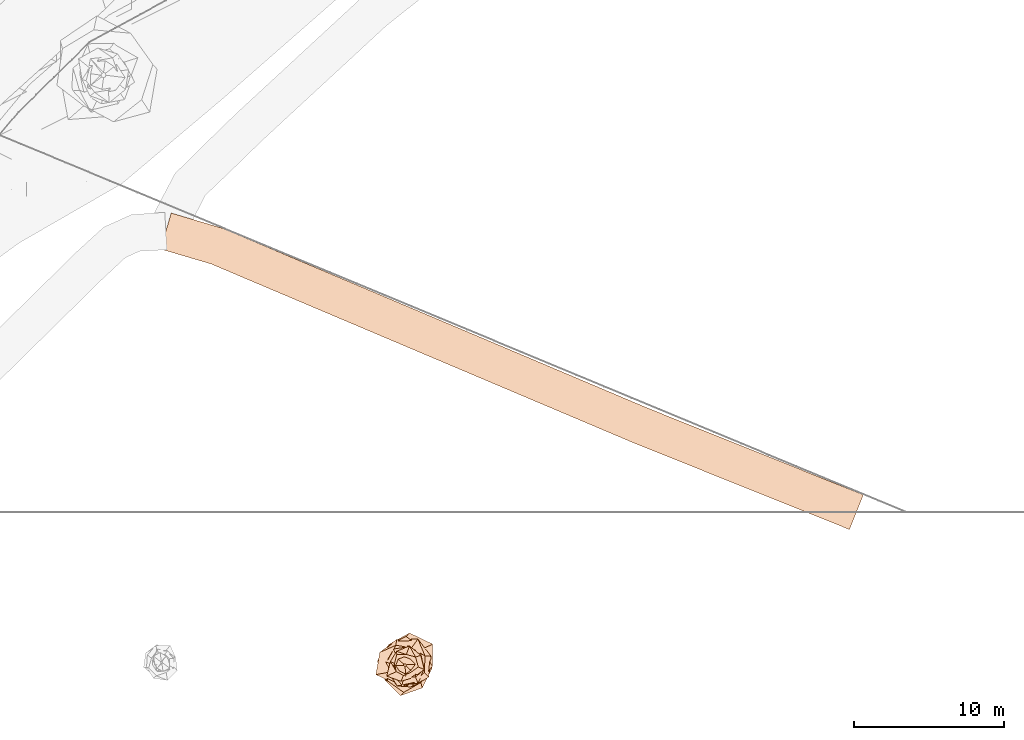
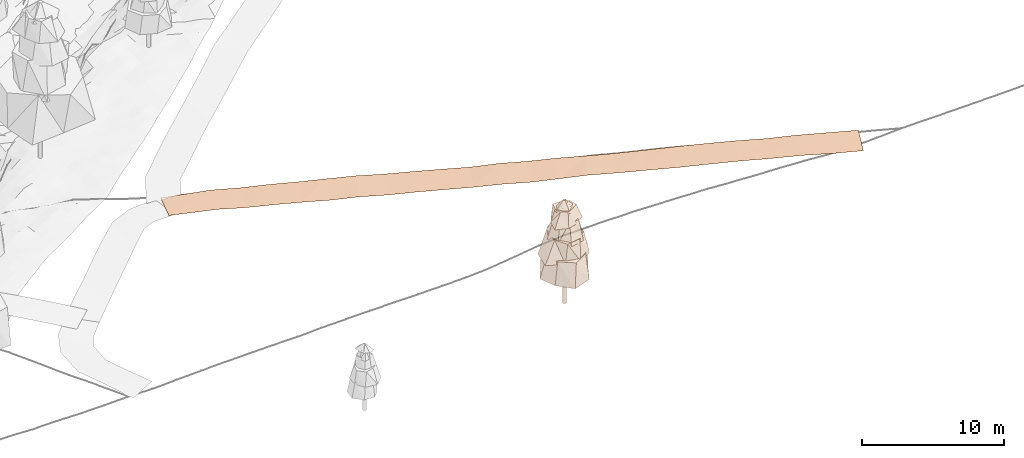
# Not in any storey, part 26 of 88: 2 geographic elements.
"""IFC4 model written with IfcOpenShell, lengths in metres."""

from ifc_helpers import new_model, si_unit, frame, origin_with_axes, place, context, subcontext, project, spatial, circle, extrude, faceted_brep, triangles, element, save


model = new_model("IFC4")

# Units and contexts
model_context = context("Model", 3, precision=1e-05, world=origin_with_axes())
body_context = subcontext(model_context, "Body", "Model", "MODEL_VIEW")
ifc_project = project(units=[si_unit("LENGTHUNIT", "METRE"), si_unit("AREAUNIT", "SQUARE_METRE"), si_unit("VOLUMEUNIT", "CUBIC_METRE"), si_unit("PLANEANGLEUNIT", "RADIAN")], contexts=[model_context])

# Sites
site_1_placement = place(None, origin_with_axes())
site_1 = spatial("IfcSite", under=ifc_project, at=site_1_placement, Name="CH907857693633", CompositionType="ELEMENT")
site_2_placement = place(None, origin_with_axes())
site_2 = spatial("IfcSite", under=site_1, at=site_2_placement, Name="Vegetation", CompositionType="ELEMENT")

# Geographic element
geographic_element_1_placement = place(None, frame((87.2070000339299, -10.183996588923, 6.5784877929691), z_axis=(0.0, 0.0, 1.0), x_axis=(1.0, 0.0, 0.0)))
element("IfcGeographicElement", 1, at=geographic_element_1_placement, inside=site_2, Name="Tree_einzelbaum", ObjectType="VEGETATION", PredefinedType="USERDEFINED", context=body_context, shape_type="Brep", body=[
    extrude(circle(Radius=0.15), origin_with_axes(), (0.0, 0.0, 1.0), 2.5),
    faceted_brep([(1.78797148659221, -0.255790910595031, 2.5), (1.14813169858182, -1.53148292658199, 2.5), (-0.291816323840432, -2.03978814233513, 2.5), (-1.32968465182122, -0.996846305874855, 2.5), (-1.84338488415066, 0.263718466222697, 2.5), (-1.04237487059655, 1.39041480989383, 2.5), (0.305363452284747, 2.13448220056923, 2.5), (1.85155159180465, 1.38808277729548, 2.5), (1.17323776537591, 1.07839284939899, 4.52791861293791), (0.0802415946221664, 1.90494587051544, 4.52791861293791), (-1.15528060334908, 1.25688781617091, 4.52791861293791), (-1.38597258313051, 0.0583810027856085, 4.52791861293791), (-1.15269732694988, -1.05951290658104, 4.52791861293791), (-0.07683726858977, -1.82412672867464, 4.52791861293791), (1.06600774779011, -1.15976339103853, 4.52791861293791), (1.82597462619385, -0.0769151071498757, 4.52791861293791), (1.85155159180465, 1.38808277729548, 2.5), (0.305363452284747, 2.13448220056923, 2.5), (0.0802415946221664, 1.90494587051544, 4.52791861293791), (1.17323776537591, 1.07839284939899, 4.52791861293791), (0.305363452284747, 2.13448220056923, 2.5), (-1.04237487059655, 1.39041480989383, 2.5), (-1.15528060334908, 1.25688781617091, 4.52791861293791), (0.0802415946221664, 1.90494587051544, 4.52791861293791), (-1.04237487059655, 1.39041480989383, 2.5), (-1.84338488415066, 0.263718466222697, 2.5), (-1.38597258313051, 0.0583810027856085, 4.52791861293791), (-1.15528060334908, 1.25688781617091, 4.52791861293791), (-1.84338488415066, 0.263718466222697, 2.5), (-1.32968465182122, -0.996846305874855, 2.5), (-1.15269732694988, -1.05951290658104, 4.52791861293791), (-1.38597258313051, 0.0583810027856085, 4.52791861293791), (-1.32968465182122, -0.996846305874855, 2.5), (-0.291816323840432, -2.03978814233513, 2.5), (-0.07683726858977, -1.82412672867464, 4.52791861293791), (-1.15269732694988, -1.05951290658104, 4.52791861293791), (-0.291816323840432, -2.03978814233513, 2.5), (1.14813169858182, -1.53148292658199, 2.5), (1.06600774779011, -1.15976339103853, 4.52791861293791), (-0.07683726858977, -1.82412672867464, 4.52791861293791), (1.14813169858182, -1.53148292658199, 2.5), (1.78797148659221, -0.255790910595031, 2.5), (1.82597462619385, -0.0769151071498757, 4.52791861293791), (1.06600774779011, -1.15976339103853, 4.52791861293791), (1.78797148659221, -0.255790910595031, 2.5), (1.85155159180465, 1.38808277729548, 2.5), (1.17323776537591, 1.07839284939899, 4.52791861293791), (1.82597462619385, -0.0769151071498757, 4.52791861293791)], [[[0, 1, 2, 3, 4, 5, 6, 7]], [[8, 9, 10, 11, 12, 13, 14, 15]], [[16, 17, 18, 19]], [[20, 21, 22, 23]], [[24, 25, 26, 27]], [[28, 29, 30, 31]], [[32, 33, 34, 35]], [[36, 37, 38, 39]], [[40, 41, 42, 43]], [[44, 45, 46, 47]]]),
    faceted_brep([(1.59155471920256, -0.797926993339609, 4.22373082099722), (0.489352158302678, -1.47335834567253, 4.22373082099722), (-0.626895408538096, -1.25041307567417, 4.22373082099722), (-1.93494684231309, -0.642661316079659, 4.22373082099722), (-1.67559377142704, 0.840060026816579, 4.22373082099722), (-0.563481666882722, 1.69655002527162, 4.22373082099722), (0.865850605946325, 1.72703596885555, 4.22373082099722), (1.74637338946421, 0.580029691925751, 4.22373082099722), (1.34149254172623, 0.600153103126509, 6.02075466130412), (0.434025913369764, 1.13675933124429, 6.02075466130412), (-0.589716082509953, 1.31816318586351, 6.02075466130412), (-1.11516397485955, 0.425780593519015, 6.02075466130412), (-1.06551814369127, -0.476688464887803, 6.02075466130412), (-0.528731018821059, -1.38480192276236, 6.02075466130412), (0.556027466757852, -1.24286068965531, 6.02075466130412), (1.29355959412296, -0.493893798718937, 6.02075466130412), (1.74637338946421, 0.580029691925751, 4.22373082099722), (0.865850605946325, 1.72703596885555, 4.22373082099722), (0.434025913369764, 1.13675933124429, 6.02075466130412), (1.34149254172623, 0.600153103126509, 6.02075466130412), (0.865850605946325, 1.72703596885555, 4.22373082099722), (-0.563481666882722, 1.69655002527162, 4.22373082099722), (-0.589716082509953, 1.31816318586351, 6.02075466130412), (0.434025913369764, 1.13675933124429, 6.02075466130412), (-0.563481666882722, 1.69655002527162, 4.22373082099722), (-1.67559377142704, 0.840060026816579, 4.22373082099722), (-1.11516397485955, 0.425780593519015, 6.02075466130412), (-0.589716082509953, 1.31816318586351, 6.02075466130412), (-1.67559377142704, 0.840060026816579, 4.22373082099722), (-1.93494684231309, -0.642661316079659, 4.22373082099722), (-1.06551814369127, -0.476688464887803, 6.02075466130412), (-1.11516397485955, 0.425780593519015, 6.02075466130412), (-1.93494684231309, -0.642661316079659, 4.22373082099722), (-0.626895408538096, -1.25041307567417, 4.22373082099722), (-0.528731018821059, -1.38480192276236, 6.02075466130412), (-1.06551814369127, -0.476688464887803, 6.02075466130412), (-0.626895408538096, -1.25041307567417, 4.22373082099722), (0.489352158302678, -1.47335834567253, 4.22373082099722), (0.556027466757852, -1.24286068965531, 6.02075466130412), (-0.528731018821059, -1.38480192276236, 6.02075466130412), (0.489352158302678, -1.47335834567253, 4.22373082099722), (1.59155471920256, -0.797926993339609, 4.22373082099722), (1.29355959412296, -0.493893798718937, 6.02075466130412), (0.556027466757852, -1.24286068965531, 6.02075466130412), (1.59155471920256, -0.797926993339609, 4.22373082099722), (1.74637338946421, 0.580029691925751, 4.22373082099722), (1.34149254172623, 0.600153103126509, 6.02075466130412), (1.29355959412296, -0.493893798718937, 6.02075466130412)], [[[0, 1, 2, 3, 4, 5, 6, 7]], [[8, 9, 10, 11, 12, 13, 14, 15]], [[16, 17, 18, 19]], [[20, 21, 22, 23]], [[24, 25, 26, 27]], [[28, 29, 30, 31]], [[32, 33, 34, 35]], [[36, 37, 38, 39]], [[40, 41, 42, 43]], [[44, 45, 46, 47]]]),
    faceted_brep([(1.37280519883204, -0.22150254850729, 5.75120108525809), (0.867832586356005, -1.20176238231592, 5.75120108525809), (-0.232547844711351, -1.44126057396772, 5.75120108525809), (-0.910898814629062, -0.657790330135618, 5.75120108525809), (-1.27912915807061, 0.206387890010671, 5.75120108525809), (-0.807699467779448, 1.1184908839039, 5.75120108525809), (0.206098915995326, 1.27733818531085, 5.75120108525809), (1.13206509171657, 0.817501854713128, 5.75120108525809), (0.734692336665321, 0.651462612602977, 7.35010471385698), (0.0529589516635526, 0.882008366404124, 7.35010471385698), (-0.53910273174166, 0.607977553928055, 7.35010471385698), (-0.900869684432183, 0.0540914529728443, 7.35010471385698), (-0.753183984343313, -0.667859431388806, 7.35010471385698), (-0.0494326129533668, -0.823278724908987, 7.35010471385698), (0.709791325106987, -0.800473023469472, 7.35010471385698), (0.775691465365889, -0.0465753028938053, 7.35010471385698), (1.13206509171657, 0.817501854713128, 5.75120108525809), (0.206098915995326, 1.27733818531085, 5.75120108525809), (0.0529589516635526, 0.882008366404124, 7.35010471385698), (0.734692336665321, 0.651462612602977, 7.35010471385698), (0.206098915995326, 1.27733818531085, 5.75120108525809), (-0.807699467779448, 1.1184908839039, 5.75120108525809), (-0.53910273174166, 0.607977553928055, 7.35010471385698), (0.0529589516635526, 0.882008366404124, 7.35010471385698), (-0.807699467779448, 1.1184908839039, 5.75120108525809), (-1.27912915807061, 0.206387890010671, 5.75120108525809), (-0.900869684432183, 0.0540914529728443, 7.35010471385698), (-0.53910273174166, 0.607977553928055, 7.35010471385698), (-1.27912915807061, 0.206387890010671, 5.75120108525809), (-0.910898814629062, -0.657790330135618, 5.75120108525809), (-0.753183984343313, -0.667859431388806, 7.35010471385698), (-0.900869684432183, 0.0540914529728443, 7.35010471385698), (-0.910898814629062, -0.657790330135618, 5.75120108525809), (-0.232547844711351, -1.44126057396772, 5.75120108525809), (-0.0494326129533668, -0.823278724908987, 7.35010471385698), (-0.753183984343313, -0.667859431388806, 7.35010471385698), (-0.232547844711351, -1.44126057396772, 5.75120108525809), (0.867832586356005, -1.20176238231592, 5.75120108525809), (0.709791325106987, -0.800473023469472, 7.35010471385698), (-0.0494326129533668, -0.823278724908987, 7.35010471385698), (0.867832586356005, -1.20176238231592, 5.75120108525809), (1.37280519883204, -0.22150254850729, 5.75120108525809), (0.775691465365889, -0.0465753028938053, 7.35010471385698), (0.709791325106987, -0.800473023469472, 7.35010471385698), (1.37280519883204, -0.22150254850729, 5.75120108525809), (1.13206509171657, 0.817501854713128, 5.75120108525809), (0.734692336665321, 0.651462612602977, 7.35010471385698), (0.775691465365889, -0.0465753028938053, 7.35010471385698)], [[[0, 1, 2, 3, 4, 5, 6, 7]], [[8, 9, 10, 11, 12, 13, 14, 15]], [[16, 17, 18, 19]], [[20, 21, 22, 23]], [[24, 25, 26, 27]], [[28, 29, 30, 31]], [[32, 33, 34, 35]], [[36, 37, 38, 39]], [[40, 41, 42, 43]], [[44, 45, 46, 47]]]),
    faceted_brep([(1.28647587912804, -0.310355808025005, 7.11026916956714), (0.522927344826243, -0.85545516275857, 7.11026916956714), (-0.261392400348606, -1.08351449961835, 7.11026916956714), (-1.21257569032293, -0.741229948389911, 7.11026916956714), (-0.964812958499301, 0.232756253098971, 7.11026916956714), (-0.557470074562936, 0.911963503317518, 7.11026916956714), (0.305849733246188, 1.26779745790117, 7.11026916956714), (1.05663619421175, 0.645906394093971, 7.11026916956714), (0.703117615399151, 0.533046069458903, 8.23514769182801), (0.0967297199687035, 0.703079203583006, 8.23514769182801), (-0.539454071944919, 0.711570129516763, 8.23514769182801), (-0.696166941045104, 0.0957787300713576, 8.23514769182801), (-0.576571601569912, -0.43710926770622, 8.23514769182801), (-0.0960508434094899, -0.698144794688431, 8.23514769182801), (0.37970357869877, -0.500850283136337, 8.23514769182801), (0.89467178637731, -0.123089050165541, 8.23514769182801), (1.05663619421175, 0.645906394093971, 7.11026916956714), (0.305849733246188, 1.26779745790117, 7.11026916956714), (0.0967297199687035, 0.703079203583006, 8.23514769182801), (0.703117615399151, 0.533046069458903, 8.23514769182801), (0.305849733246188, 1.26779745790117, 7.11026916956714), (-0.557470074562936, 0.911963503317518, 7.11026916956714), (-0.539454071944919, 0.711570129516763, 8.23514769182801), (0.0967297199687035, 0.703079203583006, 8.23514769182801), (-0.557470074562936, 0.911963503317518, 7.11026916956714), (-0.964812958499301, 0.232756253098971, 7.11026916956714), (-0.696166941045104, 0.0957787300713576, 8.23514769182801), (-0.539454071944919, 0.711570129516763, 8.23514769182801), (-0.964812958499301, 0.232756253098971, 7.11026916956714), (-1.21257569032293, -0.741229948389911, 7.11026916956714), (-0.576571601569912, -0.43710926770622, 8.23514769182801), (-0.696166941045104, 0.0957787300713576, 8.23514769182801), (-1.21257569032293, -0.741229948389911, 7.11026916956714), (-0.261392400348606, -1.08351449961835, 7.11026916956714), (-0.0960508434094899, -0.698144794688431, 8.23514769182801), (-0.576571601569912, -0.43710926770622, 8.23514769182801), (-0.261392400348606, -1.08351449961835, 7.11026916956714), (0.522927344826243, -0.85545516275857, 7.11026916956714), (0.37970357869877, -0.500850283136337, 8.23514769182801), (-0.0960508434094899, -0.698144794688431, 8.23514769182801), (0.522927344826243, -0.85545516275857, 7.11026916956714), (1.28647587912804, -0.310355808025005, 7.11026916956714), (0.89467178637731, -0.123089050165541, 8.23514769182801), (0.37970357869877, -0.500850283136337, 8.23514769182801), (1.28647587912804, -0.310355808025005, 7.11026916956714), (1.05663619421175, 0.645906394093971, 7.11026916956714), (0.703117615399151, 0.533046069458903, 8.23514769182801), (0.89467178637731, -0.123089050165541, 8.23514769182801)], [[[0, 1, 2, 3, 4, 5, 6, 7]], [[8, 9, 10, 11, 12, 13, 14, 15]], [[16, 17, 18, 19]], [[20, 21, 22, 23]], [[24, 25, 26, 27]], [[28, 29, 30, 31]], [[32, 33, 34, 35]], [[36, 37, 38, 39]], [[40, 41, 42, 43]], [[44, 45, 46, 47]]]),
    faceted_brep([(0.485109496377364, -0.434178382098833, 8.06641591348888), (0.0408725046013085, -0.737733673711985, 8.06641591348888), (-0.443930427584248, -0.496005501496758, 8.06641591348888), (-0.76035322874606, -0.0421256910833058, 8.06641591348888), (-0.540594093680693, 0.483837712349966, 8.06641591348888), (-0.0374207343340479, 0.67543049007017, 8.06641591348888), (0.442976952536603, 0.494940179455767, 8.06641591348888), (0.859467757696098, 0.0476169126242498, 8.06641591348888), (0.103340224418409, 0.016183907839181, 8.85174064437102), (0.0478882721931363, 0.0656728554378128, 8.85174064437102), (-0.0118248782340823, 0.0755062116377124, 8.85174064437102), (-0.0815187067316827, 0.0594429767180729, 8.85174064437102), (-0.104640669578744, -0.016387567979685, 8.85174064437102), (-0.0478903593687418, -0.0656757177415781, 8.85174064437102), (0.0149141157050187, -0.0952321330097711, 8.85174064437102), (0.0790142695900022, -0.0576167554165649, 8.85174064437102), (0.859467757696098, 0.0476169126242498, 8.06641591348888), (0.442976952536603, 0.494940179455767, 8.06641591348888), (0.0478882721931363, 0.0656728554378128, 8.85174064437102), (0.103340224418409, 0.016183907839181, 8.85174064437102), (0.442976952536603, 0.494940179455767, 8.06641591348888), (-0.0374207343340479, 0.67543049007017, 8.06641591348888), (-0.0118248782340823, 0.0755062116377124, 8.85174064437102), (0.0478882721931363, 0.0656728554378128, 8.85174064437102), (-0.0374207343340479, 0.67543049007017, 8.06641591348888), (-0.540594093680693, 0.483837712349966, 8.06641591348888), (-0.0815187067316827, 0.0594429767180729, 8.85174064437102), (-0.0118248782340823, 0.0755062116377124, 8.85174064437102), (-0.540594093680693, 0.483837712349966, 8.06641591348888), (-0.76035322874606, -0.0421256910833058, 8.06641591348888), (-0.104640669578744, -0.016387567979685, 8.85174064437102), (-0.0815187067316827, 0.0594429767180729, 8.85174064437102), (-0.76035322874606, -0.0421256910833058, 8.06641591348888), (-0.443930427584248, -0.496005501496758, 8.06641591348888), (-0.0478903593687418, -0.0656757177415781, 8.85174064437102), (-0.104640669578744, -0.016387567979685, 8.85174064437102), (-0.443930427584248, -0.496005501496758, 8.06641591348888), (0.0408725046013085, -0.737733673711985, 8.06641591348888), (0.0149141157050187, -0.0952321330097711, 8.85174064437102), (-0.0478903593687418, -0.0656757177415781, 8.85174064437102), (0.0408725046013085, -0.737733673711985, 8.06641591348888), (0.485109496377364, -0.434178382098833, 8.06641591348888), (0.0790142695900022, -0.0576167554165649, 8.85174064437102), (0.0149141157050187, -0.0952321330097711, 8.85174064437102), (0.485109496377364, -0.434178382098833, 8.06641591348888), (0.859467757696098, 0.0476169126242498, 8.06641591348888), (0.103340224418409, 0.016183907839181, 8.85174064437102), (0.0790142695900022, -0.0576167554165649, 8.85174064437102)], [[[0, 1, 2, 3, 4, 5, 6, 7]], [[8, 9, 10, 11, 12, 13, 14, 15]], [[16, 17, 18, 19]], [[20, 21, 22, 23]], [[24, 25, 26, 27]], [[28, 29, 30, 31]], [[32, 33, 34, 35]], [[36, 37, 38, 39]], [[40, 41, 42, 43]], [[44, 45, 46, 47]]]),
])

# Site
site_3_placement = place(None, origin_with_axes())
site_3 = spatial("IfcSite", under=site_1, at=site_3_placement, Name="Roads", CompositionType="ELEMENT")

# Geographic element
geographic_element_2_placement = place(None, origin_with_axes())
element("IfcGeographicElement", 2, at=geographic_element_2_placement, inside=site_3, Name="Road_weg", ObjectType="ROAD", PredefinedType="USERDEFINED", context=body_context, shape_type="Tessellation", body=[
    triangles([(71.6411104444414, 19.9225010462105, 2.7723510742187), (75.1187604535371, 18.8909985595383, 2.8587768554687), (77.0820403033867, 18.0632088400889, 2.87189941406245), (78.9617069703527, 17.2673421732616, 2.98408203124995), (80.8413736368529, 16.471475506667, 3.03010253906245), (82.7210403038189, 15.6756088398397, 3.1192749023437), (84.6007069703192, 14.8797421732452, 3.20002441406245), (86.4803736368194, 14.0838755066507, 3.17231445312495), (88.3600403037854, 13.2880088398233, 3.2175415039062), (90.2397069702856, 12.4921421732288, 3.24348144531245), (92.1193736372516, 11.6962755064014, 3.24616699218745), (93.9990403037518, 10.9004088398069, 3.3914916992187), (95.8787069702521, 10.1045421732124, 3.39716796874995), (97.758373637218, 9.30867550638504, 3.49384765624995), (99.6380403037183, 8.51280883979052, 3.5092895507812), (101.517706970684, 7.71694217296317, 3.54584960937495), (103.386107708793, 6.92578084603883, 3.63557128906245), (105.429017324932, 6.10573770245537, 3.71589355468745), (107.482360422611, 5.28145150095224, 3.7744262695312), (109.535703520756, 4.45716529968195, 3.8064086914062), (111.589046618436, 3.63287909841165, 3.77802734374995), (113.642389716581, 2.80859289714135, 3.85786132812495), (115.69573281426, 1.98430669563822, 3.8571899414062), (117.749075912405, 1.16002049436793, 3.85383300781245), (70.9308896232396, 17.5255057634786, 2.9526489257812), (74.3112396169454, 16.5250082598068, 2.90693359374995), (76.1072931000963, 15.7610646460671, 2.8841674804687), (77.9869597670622, 14.9651979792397, 2.96052246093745), (79.8666264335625, 14.1693313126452, 3.0089233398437), (81.7462931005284, 13.3734646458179, 3.0128295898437), (83.6259597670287, 12.5775979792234, 3.12434082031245), (85.505626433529, 11.7817313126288, 3.1079223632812), (87.3852931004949, 10.9858646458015, 3.18549804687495), (89.2649597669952, 10.189997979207, 3.22126464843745), (91.1446264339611, 9.39413131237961, 3.25373535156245), (93.0242931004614, 8.59826464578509, 3.3380249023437), (94.9039597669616, 7.80239797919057, 3.33735351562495), (96.7836264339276, 7.00653131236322, 3.46455078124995), (98.6632931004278, 6.2106646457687, 3.5930297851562), (100.542959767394, 5.41479797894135, 3.60310058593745), (102.433892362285, 4.61422597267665, 3.6591918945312), (104.497668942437, 3.78569671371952, 3.67170410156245), (106.551012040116, 2.96141051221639, 3.7392700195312), (108.604355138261, 2.13712431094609, 3.79157714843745), (110.65769823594, 1.31283810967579, 3.7939575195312), (112.711041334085, 0.488551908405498, 3.84187011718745), (114.764384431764, -0.33573429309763, 3.7849243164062), (116.817727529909, -1.16002049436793, 3.81171874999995)], [[1, 25, 2], [25, 26, 2], [2, 26, 3], [26, 27, 3], [3, 27, 4], [27, 28, 4], [4, 28, 5], [28, 29, 5], [5, 29, 6], [29, 30, 6], [6, 30, 7], [30, 31, 7], [7, 31, 8], [31, 32, 8], [8, 32, 9], [32, 33, 9], [9, 33, 10], [33, 34, 10], [10, 34, 11], [34, 35, 11], [11, 35, 12], [35, 36, 12], [12, 36, 13], [36, 37, 13], [13, 37, 14], [37, 38, 14], [14, 38, 15], [38, 39, 15], [15, 39, 16], [39, 40, 16], [16, 40, 17], [40, 41, 17], [17, 41, 18], [41, 42, 18], [18, 42, 19], [42, 43, 19], [19, 43, 20], [43, 44, 20], [20, 44, 21], [44, 45, 21], [21, 45, 22], [45, 46, 22], [22, 46, 23], [46, 47, 23], [23, 47, 24], [47, 48, 24]]),
])

save(model, "model.ifc")
